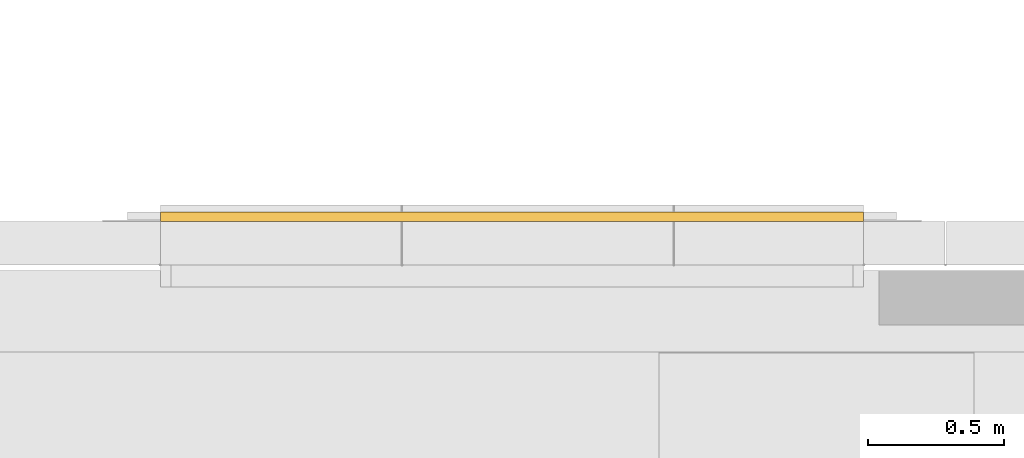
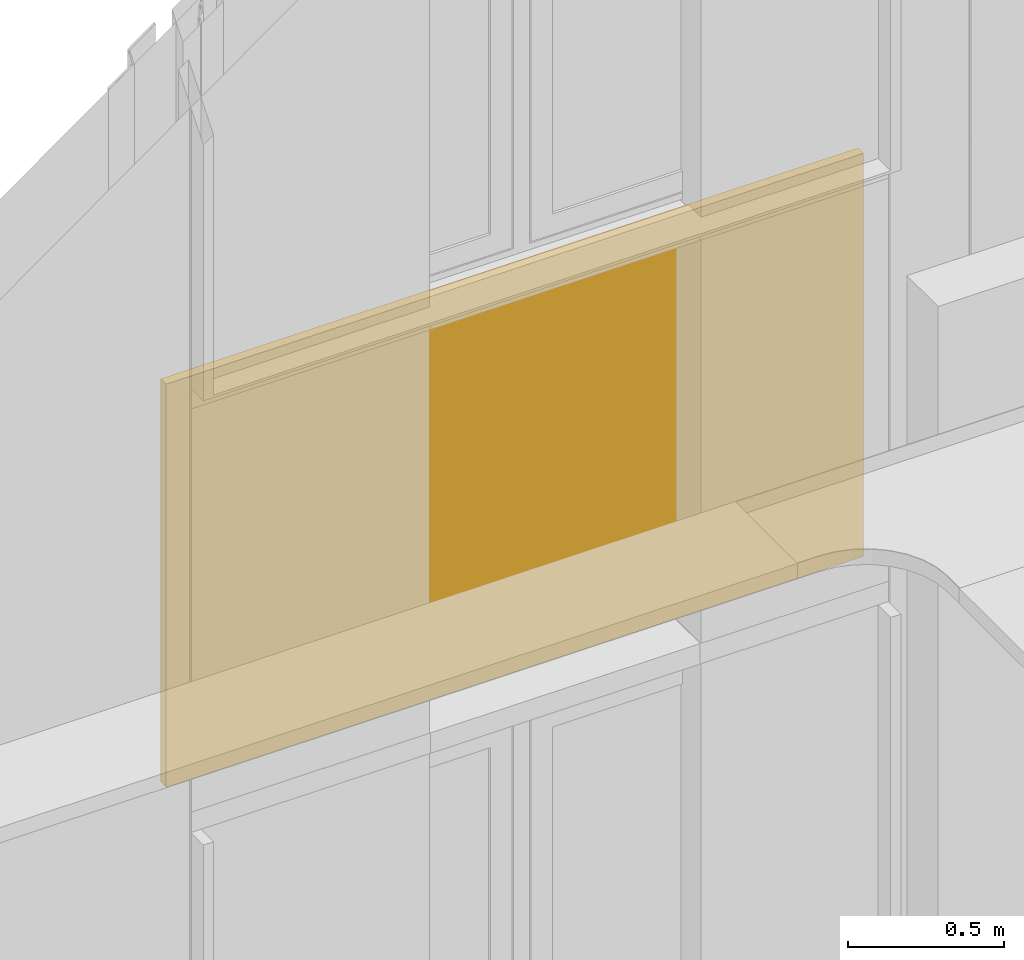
# One storey, part 233 of 302: 1 curtain wall, 1 element without a shape of its own.
"""IFC2X3 building model written with IfcOpenShell, lengths in metres."""

from ifc_helpers import new_model, entity, si_unit, converted_unit, derived_unit, direction, frame, frame_2d, origin, place, context, subcontext, project, spatial, rectangle, extrude, material, layer, layer_set, layer_usage, type_object, element, aggregate, save


model = new_model("IFC2X3")

# Units and contexts
model_context = context("Model", 3, precision=1e-05, world=origin(), true_north=direction((6.12303176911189e-17, 1.0)))
body_context = subcontext(model_context, "Body", "Model", "MODEL_VIEW")
ifc_project = project(units=[si_unit("LENGTHUNIT", "METRE"), si_unit("AREAUNIT", "SQUARE_METRE"), si_unit("VOLUMEUNIT", "CUBIC_METRE"), converted_unit("PLANEANGLEUNIT", "DEGREE", entity("IfcRatioMeasure", 0.0174532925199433), si_unit("PLANEANGLEUNIT", "RADIAN"), dimensions=[0, 0, 0, 0, 0, 0, 0]), si_unit("MASSUNIT", "GRAM", prefix="KILO"), derived_unit("MASSDENSITYUNIT", [(si_unit("MASSUNIT", "GRAM", prefix="KILO"), 1), (si_unit("LENGTHUNIT", "METRE"), -3)]), derived_unit("MOMENTOFINERTIAUNIT", [(si_unit("LENGTHUNIT", "METRE"), 4)]), si_unit("TIMEUNIT", "SECOND"), si_unit("FREQUENCYUNIT", "HERTZ"), si_unit("THERMODYNAMICTEMPERATUREUNIT", "DEGREE_CELSIUS"), derived_unit("THERMALTRANSMITTANCEUNIT", [(si_unit("MASSUNIT", "GRAM", prefix="KILO"), 1), (si_unit("THERMODYNAMICTEMPERATUREUNIT", "KELVIN"), -1), (si_unit("TIMEUNIT", "SECOND"), -3)]), derived_unit("VOLUMETRICFLOWRATEUNIT", [(si_unit("LENGTHUNIT", "METRE"), 3), (si_unit("TIMEUNIT", "SECOND"), -1)]), si_unit("ELECTRICCURRENTUNIT", "AMPERE"), si_unit("ELECTRICVOLTAGEUNIT", "VOLT"), si_unit("POWERUNIT", "WATT"), si_unit("FORCEUNIT", "NEWTON", prefix="KILO"), si_unit("ILLUMINANCEUNIT", "LUX"), si_unit("LUMINOUSFLUXUNIT", "LUMEN"), si_unit("LUMINOUSINTENSITYUNIT", "CANDELA"), derived_unit("USERDEFINED", [(si_unit("MASSUNIT", "GRAM", prefix="KILO"), -1), (si_unit("LENGTHUNIT", "METRE"), -2), (si_unit("TIMEUNIT", "SECOND"), 3), (si_unit("LUMINOUSFLUXUNIT", "LUMEN"), 1)]), derived_unit("LINEARVELOCITYUNIT", [(si_unit("LENGTHUNIT", "METRE"), 1), (si_unit("TIMEUNIT", "SECOND"), -1)]), si_unit("PRESSUREUNIT", "PASCAL"), derived_unit("USERDEFINED", [(si_unit("LENGTHUNIT", "METRE"), -2), (si_unit("MASSUNIT", "GRAM", prefix="KILO"), 1), (si_unit("TIMEUNIT", "SECOND"), -2)]), derived_unit("LINEARFORCEUNIT", [(si_unit("MASSUNIT", "GRAM", prefix="KILO"), 1), (si_unit("LENGTHUNIT", "METRE"), 1), (si_unit("TIMEUNIT", "SECOND"), -2), (si_unit("LENGTHUNIT", "METRE"), -1)]), derived_unit("PLANARFORCEUNIT", [(si_unit("MASSUNIT", "GRAM", prefix="KILO"), 1), (si_unit("LENGTHUNIT", "METRE"), 1), (si_unit("TIMEUNIT", "SECOND"), -2), (si_unit("LENGTHUNIT", "METRE"), -2)])], contexts=[model_context])

# Site, building, storey
site_placement = place(None, origin())
site = spatial("IfcSite", under=ifc_project, at=site_placement, Name="Default", CompositionType="ELEMENT")
building_placement = place(site_placement, origin())
building = spatial("IfcBuilding", under=site, at=building_placement, CompositionType="ELEMENT")
storey_placement = place(building_placement, frame((0.0, 0.0, -1.3)))
storey = spatial("IfcBuildingStorey", under=building, at=storey_placement, Name="00_EG", CompositionType="ELEMENT", Elevation=-1.3)

# Curtain walls
curtain_wall_type_1 = type_object("IfcCurtainWallType", Name="Fassade:Curtain Wall 1", PredefinedType="NOTDEFINED")
curtain_wall_1_placement = place(storey_placement, frame((0.0, 0.0, 1.3)))
curtain_wall_1 = element("IfcCurtainWall", 1, at=curtain_wall_1_placement, inside=storey, type_object=curtain_wall_type_1, Name="Fassade:Curtain Wall 1", ObjectType="Fassade:Curtain Wall 1")
ifc_material = material(Name="Glass")
ifc_layer = layer(ifc_material, 0.035)
ifc_layer_set = layer_set([ifc_layer], Name="Fassade:Sandwichpaneele 16cm")
ifc_layer_usage = layer_usage(ifc_layer_set, "AXIS2", "POSITIVE", -0.0175)
curtain_wall_type_2 = type_object("IfcCurtainWallType", Name="Basiswand:Glass", PredefinedType="NOTDEFINED", material=ifc_layer_set)
curtain_wall_2_placement = place(storey_placement, frame((-219.912611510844, 45.755588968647, 4.10999999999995), z_axis=(0.0, 0.0, 1.0), x_axis=(-1.0, 0.0, 0.0)))
curtain_wall_2 = element("IfcCurtainWall", 2, at=curtain_wall_2_placement, type_object=curtain_wall_type_2, material=ifc_layer_usage, Name="Basiswand:Glass", ObjectType="Basiswand:Glass", context=body_context, shape_type="SweptSolid", body=[
    extrude(rectangle(XDim=2.58500000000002, YDim=0.034999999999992, at=frame_2d((1.29250000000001, 0.0), x_axis=(-1.0, 0.0))), origin(), (0.0, 0.0, 1.0), 1.58000000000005),
])
aggregate(curtain_wall_1, [curtain_wall_2])

save(model, "model.ifc")
